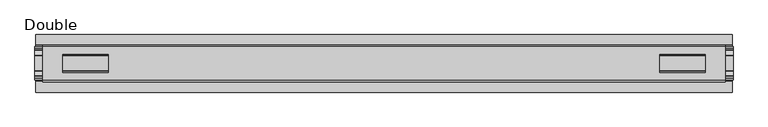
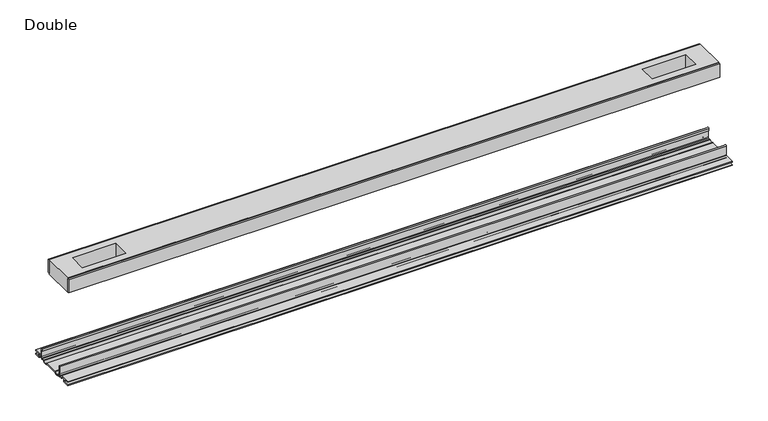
"""IFC4 building model written with IfcOpenShell, lengths in millimetres: proxy geometry, Frame-Teknion-FHCRA-Horizontal_Rail-R2022 : Double."""

from ifc_helpers import new_model, si_unit, point, frame, frame_2d, origin, place, context, project, spatial, polyline, circle_curve, trimmed, segment, composite_curve, outline, extrude, source, transform, mapped, element, save


def double_8838e71f(model_context):
    return source(origin(), model_context, "Body", "SweptSolid", [
        extrude(outline(polyline([(593.6615091, -29.0068005), (593.6615091, -32.1817997), (-593.6615091, -32.1817997), (-593.6615091, -29.0068005), (593.6615091, -29.0068005)])), frame((0.0, 0.0, 149.8401622), z_axis=(0.0, 0.0, 1.0), x_axis=(1.0, 0.0, 0.0)), (0.0, 0.0, 1.0), 25.3999939),
        extrude(outline(polyline([(593.6615091, 32.1817997), (593.6615091, 29.0068005), (-593.6615091, 29.0068005), (-593.6615091, 32.1817997), (593.6615091, 32.1817997)])), frame((0.0, 0.0, 149.8401622), z_axis=(0.0, 0.0, 1.0), x_axis=(1.0, 0.0, 0.0)), (0.0, 0.0, 1.0), 25.3999939),
        extrude(outline(polyline([(593.6615091, 29.0068005), (593.6615091, -29.0068005), (-593.6615091, -29.0068005), (-593.6615091, 29.0068005), (593.6615091, 29.0068005)]), holes=[polyline([(559.2444965, 15.1130038), (480.1996847, 15.1130038), (480.1996847, -15.875003), (559.2444965, -15.875003), (559.2444965, 15.1130038)]), polyline([(-559.2444965, 15.1130038), (-559.2444965, -15.875003), (-480.1996847, -15.875003), (-480.1996847, 15.1130038), (-559.2444965, 15.1130038)])]), frame((0.0, 0.0, 148.4185847), z_axis=(0.0, 0.0, 1.0), x_axis=(1.0, 0.0, 0.0)), (0.0, 0.0, 1.0), 27.9999988),
        extrude(outline(composite_curve([segment(polyline([(-28.8162961, -7.7516037), (-28.8162961, 9.8607558)]), True, "CONTINUOUS"), segment(trimmed(circle_curve(frame_2d((-27.5970982, 9.8607558)), 1.2191979), [point((-28.8162961, 9.8607558))], [point((-26.3779003, 9.8607558))], False, "CARTESIAN"), True, "CONTINUOUS"), segment(polyline([(-26.3779003, 9.8607558), (-26.3779003, 5.9999563), (-27.6580769, 5.9999563), (-27.6580769, -7.7516037)]), True, "CONTINUOUS"), segment(trimmed(circle_curve(frame_2d((-26.6420561, -7.7516037)), 1.0160208), [point((-27.6580769, -7.7516037))], [point((-26.6485732, -8.7676036))], True, "CARTESIAN"), True, "CONTINUOUS"), segment(polyline([(-26.6485732, -8.7676036), (-22.7056226, -8.7676036), (-21.7922609, -8.968753)]), True, "CONTINUOUS"), segment(trimmed(circle_curve(frame_2d((-17.7673021, -6.1259382)), 4.9276657), [point((-21.7922609, -8.968753))], [point((-13.7423434, -8.968753))], True, "CARTESIAN"), True, "CONTINUOUS"), segment(polyline([(-13.7423434, -8.968753), (-12.8289726, -8.7676036), (13.2099722, -8.7676036), (14.123343, -8.968753)]), True, "CONTINUOUS"), segment(trimmed(circle_curve(frame_2d((18.1483018, -6.1259382)), 4.9276657), [point((14.123343, -8.968753))], [point((22.1732605, -8.968753))], True, "CARTESIAN"), True, "CONTINUOUS"), segment(polyline([(22.1732605, -8.968753), (23.0866222, -8.7676036), (27.0295728, -8.7676036)]), True, "CONTINUOUS"), segment(trimmed(circle_curve(frame_2d((27.0230557, -7.7516037)), 1.0160208), [point((27.0295728, -8.7676036))], [point((28.0390765, -7.7516037))], True, "CARTESIAN"), True, "CONTINUOUS"), segment(polyline([(28.0390765, -7.7516037), (28.0390765, 5.9999563), (26.7588999, 5.9999563), (26.7588999, 9.8607558)]), True, "CONTINUOUS"), segment(trimmed(circle_curve(frame_2d((27.9780978, 9.8607558)), 1.2191979), [point((26.7588999, 9.8607558))], [point((29.1972958, 9.8607558))], False, "CARTESIAN"), True, "CONTINUOUS"), segment(polyline([(29.1972958, 9.8607558), (29.1972958, -7.7516037)]), True, "CONTINUOUS"), segment(trimmed(circle_curve(frame_2d((27.0230557, -7.7516037)), 2.17424), [point((29.1972958, -7.7516037))], [point((27.0230557, -9.9258438))], False, "CARTESIAN"), True, "CONTINUOUS"), segment(polyline([(27.0230557, -9.9258438), (22.732069, -9.9258438)]), True, "CONTINUOUS"), segment(trimmed(circle_curve(frame_2d((18.1516545, -6.4800016)), 5.7318431), [point((22.732069, -9.9258438))], [point((13.57124, -9.9258438))], False, "CARTESIAN"), True, "CONTINUOUS"), segment(polyline([(13.57124, -9.9258438), (-13.1902404, -9.9258438)]), True, "CONTINUOUS"), segment(trimmed(circle_curve(frame_2d((-17.7706549, -6.4800016)), 5.7318431), [point((-13.1902404, -9.9258438))], [point((-22.3510694, -9.9258438))], False, "CARTESIAN"), True, "CONTINUOUS"), segment(polyline([(-22.3510694, -9.9258438), (-26.6420561, -9.9258438)]), True, "CONTINUOUS"), segment(trimmed(circle_curve(frame_2d((-26.6420561, -7.7516037)), 2.17424), [point((-26.6420561, -9.9258438))], [point((-28.8162961, -7.7516037))], False, "CARTESIAN"), True, "CONTINUOUS")], self_intersect=False)), frame((-607.7204, 0.0, 0.0), z_axis=(1.0, 0.0, 0.0), x_axis=(0.0, 1.0, 0.0)), (0.0, 0.0, 1.0), 1215.4408),
        extrude(outline(composite_curve([segment(polyline([(-50.2668422, -13.9898438), (-50.2240211, -12.3388438), (-39.7827507, -12.3388438), (-39.7827507, -7.766844), (-50.2240211, -7.766844), (-50.2668422, -6.1158439), (-31.1784975, -6.1158439)]), True, "CONTINUOUS"), segment(trimmed(circle_curve(frame_2d((-31.1784975, -7.6398436)), 1.5239997), [point((-31.1784975, -6.1158439))], [point((-29.6544978, -7.6398436))], False, "CARTESIAN"), True, "CONTINUOUS"), segment(polyline([(-29.6544978, -7.6398436), (-29.6544978, -9.9258438), (-23.1058344, -9.9258438)]), True, "CONTINUOUS"), segment(trimmed(circle_curve(frame_2d((-17.7673021, -5.2268471)), 7.1119966), [point((-23.1058344, -9.9258438))], [point((-12.4287699, -9.9258438))], True, "CARTESIAN"), True, "CONTINUOUS"), segment(polyline([(-12.4287699, -9.9258438), (12.8097695, -9.9258438)]), True, "CONTINUOUS"), segment(trimmed(circle_curve(frame_2d((18.1483018, -5.2268471)), 7.1119966), [point((12.8097695, -9.9258438))], [point((23.486834, -9.9258438))], True, "CARTESIAN"), True, "CONTINUOUS"), segment(polyline([(23.486834, -9.9258438), (30.0354975, -9.9258438), (30.0354975, -7.7656583)]), True, "CONTINUOUS"), segment(trimmed(circle_curve(frame_2d((31.6864982, -7.7656583)), 1.6510007), [point((30.0354975, -7.7656583))], [point((31.6239218, -6.1158439))], False, "CARTESIAN"), True, "CONTINUOUS"), segment(polyline([(31.6239218, -6.1158439), (50.00625, -6.1158439), (50.00625, -7.766844), (40.1637503, -7.766844), (40.1637503, -12.3388438), (50.00625, -12.3388438), (50.00625, -13.9898438), (40.0367518, -13.9898438)]), True, "CONTINUOUS"), segment(trimmed(circle_curve(frame_2d((40.0367518, -12.4658438)), 1.524), [point((40.0367518, -13.9898438))], [point((38.5127519, -12.4658438))], False, "CARTESIAN"), True, "CONTINUOUS"), segment(polyline([(38.5127519, -12.4658438), (38.5127519, -7.766844), (31.686497, -7.766844), (31.686497, -10.0528438)]), True, "CONTINUOUS"), segment(trimmed(circle_curve(frame_2d((30.1624971, -10.0528438)), 1.524), [point((31.686497, -10.0528438))], [point((30.1624971, -11.5768438))], False, "CARTESIAN"), True, "CONTINUOUS"), segment(polyline([(30.1624971, -11.5768438), (23.6563549, -11.5768438)]), True, "CONTINUOUS"), segment(trimmed(circle_curve(frame_2d((18.1483018, -6.4968436)), 7.4930002), [point((23.6563549, -11.5768438))], [point((12.8904968, -11.8354331))], False, "CARTESIAN"), True, "CONTINUOUS"), segment(polyline([(12.8904968, -11.8354331), (-12.5094972, -11.8354331)]), True, "CONTINUOUS"), segment(trimmed(circle_curve(frame_2d((-17.7673021, -6.4968436)), 7.4930002), [point((-12.5094972, -11.8354331))], [point((-23.2753553, -11.5768438))], False, "CARTESIAN"), True, "CONTINUOUS"), segment(polyline([(-23.2753553, -11.5768438), (-29.7814974, -11.5768438)]), True, "CONTINUOUS"), segment(trimmed(circle_curve(frame_2d((-29.7814974, -10.0528438)), 1.524), [point((-29.7814974, -11.5768438))], [point((-31.3054974, -10.0528438))], False, "CARTESIAN"), True, "CONTINUOUS"), segment(polyline([(-31.3054974, -10.0528438), (-31.3054974, -7.766844), (-38.1317522, -7.766844), (-38.1317522, -12.4658438)]), True, "CONTINUOUS"), segment(trimmed(circle_curve(frame_2d((-39.6557522, -12.4658438)), 1.524), [point((-38.1317522, -12.4658438))], [point((-39.6557522, -13.9898438))], False, "CARTESIAN"), True, "CONTINUOUS"), segment(polyline([(-39.6557522, -13.9898438), (-50.2668422, -13.9898438)]), True, "CONTINUOUS")], self_intersect=False)), frame((-606.0694, 0.0, 0.0), z_axis=(1.0, 0.0, 0.0), x_axis=(0.0, 1.0, 0.0)), (0.0, 0.0, 1.0), 1212.1388),
    ])


if __name__ == "__main__":
    model = new_model("IFC4")
    model_context = context("Model", 3, world=origin())
    ifc_project = project(units=[si_unit("LENGTHUNIT", "METRE", prefix="MILLI")], contexts=[model_context])
    site = spatial("IfcSite", under=ifc_project)
    building = spatial("IfcBuilding", under=site)
    placement = place(None, origin())
    double_shape = double_8838e71f(model_context)
    element("IfcBuildingElementProxy", 1, Name="Frame-Teknion-FHCRA-Horizontal_Rail-R2022 : Double", ObjectType="Frame-Teknion-FHCRA-Horizontal_Rail-R2022 : Double", at=placement, inside=building, context=model_context, shape_type="MappedRepresentation", body=[
        mapped(double_shape, transform((0.0, 0.0, 0.0), x_axis=(1.0, 0.0, 0.0), y_axis=(0.0, 1.0, 0.0), z_axis=(0.0, 0.0, 1.0))),
    ])
    save(model, "model.ifc")
